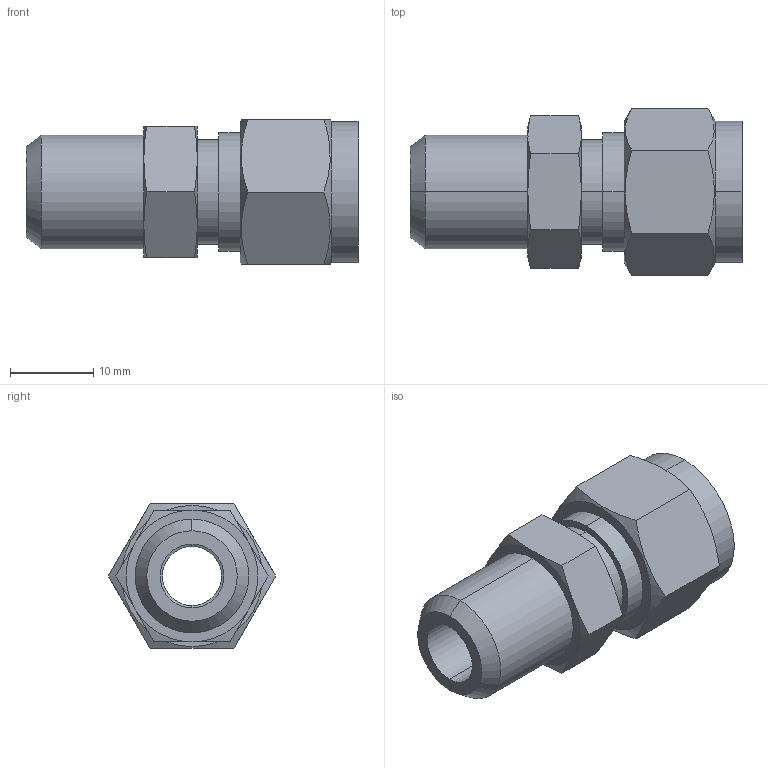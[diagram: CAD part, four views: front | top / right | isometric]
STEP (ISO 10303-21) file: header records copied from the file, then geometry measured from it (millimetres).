
FILE_DESCRIPTION (( 'STEP AP203' ), '1' );
FILE_NAME ('DCB06-04 SS.STEP', '2009-09-08T04:47:18', ( ' ' ), ( '' ), 'SwSTEP 2.0', 'SolidWorks 2008', '' );
FILE_SCHEMA (( 'CONFIG_CONTROL_DESIGN' ));
Length unit declared in the file: millimetre
Products named in the file (1): DCB06-04 SS
Bounding box: 40 x 20.16 x 17.46 mm (x, y, z)
Volume: 5581.2 mm3; surface area: 3606.7 mm2
Topology: 1 solids, 1 shells, 53 faces, 118 edges, 72 vertices
Faces by surface type: cone 20, plane 19, cylinder 14
Entity records: 1673 total; most frequent: CARTESIAN_POINT 460, ORIENTED_EDGE 236, DIRECTION 230, EDGE_CURVE 118, AXIS2_PLACEMENT_3D 98, VERTEX_POINT 72, EDGE_LOOP 60, ADVANCED_FACE 53
